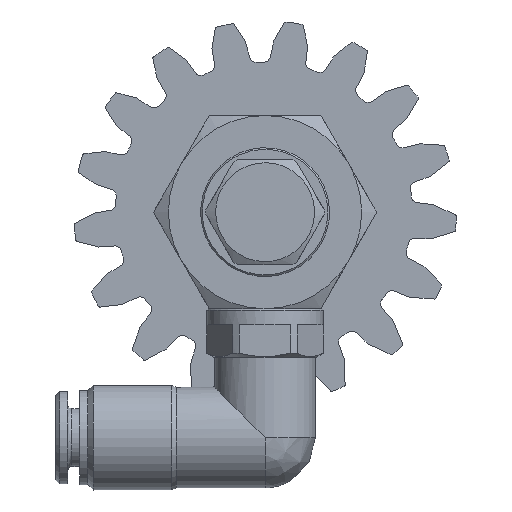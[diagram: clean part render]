
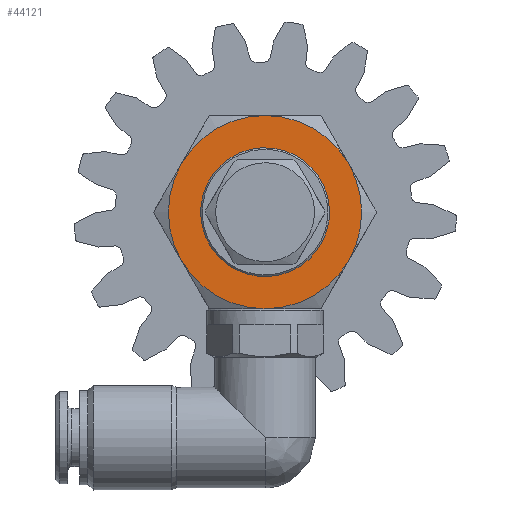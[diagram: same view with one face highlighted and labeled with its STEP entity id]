
A CAD part, front view. The second image highlights one B-rep face of the part: STEP entity #44121.
In plain terms, the highlighted planar face has unit normal (0, -1, 0).
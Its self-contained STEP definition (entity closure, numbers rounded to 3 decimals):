
#412 = ORIENTED_EDGE ( 'NONE', *, *, #1222, .T. ) ;
#598 = VERTEX_POINT ( 'NONE', #35419 ) ;
#737 = DIRECTION ( 'NONE',  ( 0., 1., 0. ) ) ;
#1222 = EDGE_CURVE ( 'NONE', #34940, #34940, #37610, .T. ) ;
#2110 = DIRECTION ( 'NONE',  ( 0., 1., 0. ) ) ;
#2420 = CARTESIAN_POINT ( 'NONE',  ( 0., 0., -12. ) ) ;
#6057 = CIRCLE ( 'NONE', #31861, 12. ) ;
#6551 = VERTEX_POINT ( 'NONE', #39456 ) ;
#7791 = ORIENTED_EDGE ( 'NONE', *, *, #37510, .F. ) ;
#8120 = DIRECTION ( 'NONE',  ( 0., 0., 1. ) ) ;
#9129 = AXIS2_PLACEMENT_3D ( 'NONE', #43423, #11768, #32600 ) ;
#10498 = VERTEX_POINT ( 'NONE', #38303 ) ;
#11768 = DIRECTION ( 'NONE',  ( 0., 1., 0. ) ) ;
#12602 = CARTESIAN_POINT ( 'NONE',  ( 0., 0., 0. ) ) ;
#13280 = DIRECTION ( 'NONE',  ( 0., 0., 1. ) ) ;
#13655 = ORIENTED_EDGE ( 'NONE', *, *, #31366, .F. ) ;
#13726 = CIRCLE ( 'NONE', #24051, 12. ) ;
#14617 = CARTESIAN_POINT ( 'NONE',  ( 0., 0., 0. ) ) ;
#14734 = PLANE ( 'NONE',  #27658 ) ;
#14863 = CIRCLE ( 'NONE', #23840, 12. ) ;
#15201 = FACE_BOUND ( 'NONE', #36878, .T. ) ;
#15442 = AXIS2_PLACEMENT_3D ( 'NONE', #17222, #21350, #21584 ) ;
#16468 = EDGE_CURVE ( 'NONE', #31456, #10498, #45198, .T. ) ;
#16755 = CARTESIAN_POINT ( 'NONE',  ( 0., 0., 0. ) ) ;
#17222 = CARTESIAN_POINT ( 'NONE',  ( 0., 0., 0. ) ) ;
#18412 = DIRECTION ( 'NONE',  ( 0., 0., 1. ) ) ;
#19899 = CARTESIAN_POINT ( 'NONE',  ( 0., 0., 0. ) ) ;
#20367 = VERTEX_POINT ( 'NONE', #2420 ) ;
#21350 = DIRECTION ( 'NONE',  ( 0., 1., 0. ) ) ;
#21584 = DIRECTION ( 'NONE',  ( 0., 0., 1. ) ) ;
#23258 = ORIENTED_EDGE ( 'NONE', *, *, #38918, .F. ) ;
#23311 = DIRECTION ( 'NONE',  ( 0., 0., 1. ) ) ;
#23799 = AXIS2_PLACEMENT_3D ( 'NONE', #19899, #2110, #43934 ) ;
#23840 = AXIS2_PLACEMENT_3D ( 'NONE', #16755, #44931, #13280 ) ;
#24051 = AXIS2_PLACEMENT_3D ( 'NONE', #27253, #24213, #23311 ) ;
#24213 = DIRECTION ( 'NONE',  ( 0., 1., 0. ) ) ;
#24712 = AXIS2_PLACEMENT_3D ( 'NONE', #12602, #35193, #26725 ) ;
#26725 = DIRECTION ( 'NONE',  ( 0., 0., 1. ) ) ;
#27253 = CARTESIAN_POINT ( 'NONE',  ( 0., 0., 0. ) ) ;
#27559 = CIRCLE ( 'NONE', #9129, 12. ) ;
#27658 = AXIS2_PLACEMENT_3D ( 'NONE', #42894, #29300, #18412 ) ;
#28017 = EDGE_CURVE ( 'NONE', #20367, #31456, #14863, .T. ) ;
#29300 = DIRECTION ( 'NONE',  ( 0., 1., 0. ) ) ;
#29513 = VERTEX_POINT ( 'NONE', #33991 ) ;
#30849 = CARTESIAN_POINT ( 'NONE',  ( -10.392, 0., -6. ) ) ;
#31366 = EDGE_CURVE ( 'NONE', #29513, #598, #6057, .T. ) ;
#31456 = VERTEX_POINT ( 'NONE', #30849 ) ;
#31688 = CARTESIAN_POINT ( 'NONE',  ( 0., 0., 3.75 ) ) ;
#31861 = AXIS2_PLACEMENT_3D ( 'NONE', #14617, #737, #8120 ) ;
#32600 = DIRECTION ( 'NONE',  ( 0., 0., 1. ) ) ;
#33689 = EDGE_LOOP ( 'NONE', ( #13655, #7791, #42074, #45252, #23258, #44451 ) ) ;
#33991 = CARTESIAN_POINT ( 'NONE',  ( 0., 0., 12. ) ) ;
#34940 = VERTEX_POINT ( 'NONE', #31688 ) ;
#35193 = DIRECTION ( 'NONE',  ( 0., 1., 0. ) ) ;
#35419 = CARTESIAN_POINT ( 'NONE',  ( 10.392, 0., 6. ) ) ;
#36878 = EDGE_LOOP ( 'NONE', ( #412 ) ) ;
#37510 = EDGE_CURVE ( 'NONE', #10498, #29513, #27559, .T. ) ;
#37610 = CIRCLE ( 'NONE', #15442, 3.75 ) ;
#38303 = CARTESIAN_POINT ( 'NONE',  ( -10.392, 0., 6. ) ) ;
#38918 = EDGE_CURVE ( 'NONE', #6551, #20367, #39444, .T. ) ;
#39444 = CIRCLE ( 'NONE', #24712, 12. ) ;
#39456 = CARTESIAN_POINT ( 'NONE',  ( 10.392, 0., -6. ) ) ;
#39893 = FACE_OUTER_BOUND ( 'NONE', #33689, .T. ) ;
#42074 = ORIENTED_EDGE ( 'NONE', *, *, #16468, .F. ) ;
#42095 = EDGE_CURVE ( 'NONE', #598, #6551, #13726, .T. ) ;
#42894 = CARTESIAN_POINT ( 'NONE',  ( 12., 0., 0. ) ) ;
#43423 = CARTESIAN_POINT ( 'NONE',  ( 0., 0., 0. ) ) ;
#43934 = DIRECTION ( 'NONE',  ( 0., 0., 1. ) ) ;
#44121 = ADVANCED_FACE ( 'NONE', ( #39893, #15201 ), #14734, .F. ) ;
#44451 = ORIENTED_EDGE ( 'NONE', *, *, #42095, .F. ) ;
#44931 = DIRECTION ( 'NONE',  ( 0., 1., 0. ) ) ;
#45198 = CIRCLE ( 'NONE', #23799, 12. ) ;
#45252 = ORIENTED_EDGE ( 'NONE', *, *, #28017, .F. ) ;
